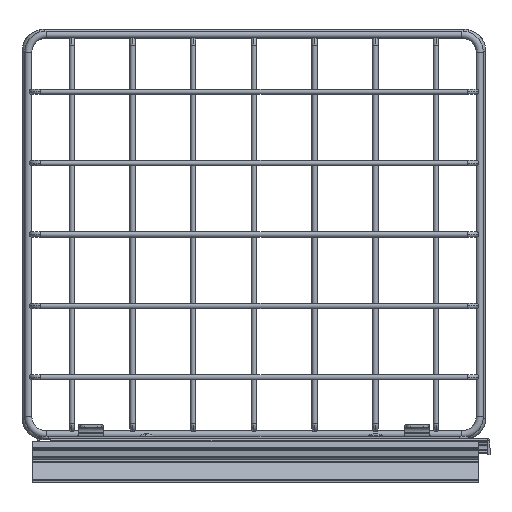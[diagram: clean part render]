
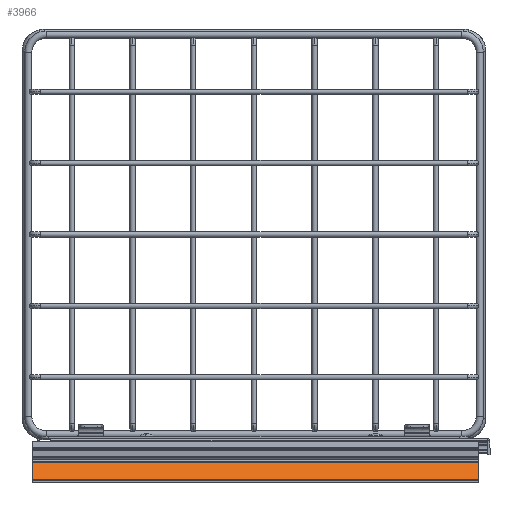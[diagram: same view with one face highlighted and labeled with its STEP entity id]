
A CAD part, front view. The second image highlights one B-rep face of the part: STEP entity #3966.
In plain terms, the highlighted planar face has unit normal (0, -0.838, 0.546).
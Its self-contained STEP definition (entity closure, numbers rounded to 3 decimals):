
#263 = ORIENTED_EDGE ( 'NONE', *, *, #8810, .T. ) ;
#853 = PLANE ( 'NONE',  #7718 ) ;
#1134 = LINE ( 'NONE', #7067, #3928 ) ;
#2016 = DIRECTION ( 'NONE',  ( -1., 0., 0. ) ) ;
#2386 = ORIENTED_EDGE ( 'NONE', *, *, #9060, .T. ) ;
#3427 = LINE ( 'NONE', #26014, #16430 ) ;
#3928 = VECTOR ( 'NONE', #13288, 1000. ) ;
#3966 = ADVANCED_FACE ( 'NONE', ( #10889 ), #853, .F. ) ;
#4681 = DIRECTION ( 'NONE',  ( 0., 0.546, 0.838 ) ) ;
#5348 = VERTEX_POINT ( 'NONE', #5388 ) ;
#5388 = CARTESIAN_POINT ( 'NONE',  ( 125., -14.904, 0.593 ) ) ;
#6912 = VECTOR ( 'NONE', #2016, 1000. ) ;
#7067 = CARTESIAN_POINT ( 'NONE',  ( 125., -14.756, 0.819 ) ) ;
#7238 = CARTESIAN_POINT ( 'NONE',  ( -125., -21.665, -9.773 ) ) ;
#7718 = AXIS2_PLACEMENT_3D ( 'NONE', #22777, #10762, #4681 ) ;
#8670 = CARTESIAN_POINT ( 'NONE',  ( 125., -21.665, -9.773 ) ) ;
#8810 = EDGE_CURVE ( 'NONE', #24860, #25404, #22518, .T. ) ;
#9060 = EDGE_CURVE ( 'NONE', #5348, #24860, #23693, .T. ) ;
#10491 = DIRECTION ( 'NONE',  ( 0., -0.546, -0.838 ) ) ;
#10762 = DIRECTION ( 'NONE',  ( 0., 0.838, -0.546 ) ) ;
#10889 = FACE_OUTER_BOUND ( 'NONE', #20535, .T. ) ;
#10989 = EDGE_CURVE ( 'NONE', #24388, #25404, #3427, .T. ) ;
#12063 = CARTESIAN_POINT ( 'NONE',  ( 125., -14.904, 0.593 ) ) ;
#13288 = DIRECTION ( 'NONE',  ( 0., -0.546, -0.838 ) ) ;
#16430 = VECTOR ( 'NONE', #19915, 1000. ) ;
#16439 = CARTESIAN_POINT ( 'NONE',  ( -125., -14.904, 0.593 ) ) ;
#19915 = DIRECTION ( 'NONE',  ( -1., 0., 0. ) ) ;
#20535 = EDGE_LOOP ( 'NONE', ( #263, #25201, #25092, #2386 ) ) ;
#21167 = VECTOR ( 'NONE', #10491, 1000. ) ;
#22469 = EDGE_CURVE ( 'NONE', #5348, #24388, #1134, .T. ) ;
#22518 = LINE ( 'NONE', #24899, #21167 ) ;
#22777 = CARTESIAN_POINT ( 'NONE',  ( 125., -14.756, 0.819 ) ) ;
#23693 = LINE ( 'NONE', #12063, #6912 ) ;
#24388 = VERTEX_POINT ( 'NONE', #8670 ) ;
#24860 = VERTEX_POINT ( 'NONE', #16439 ) ;
#24899 = CARTESIAN_POINT ( 'NONE',  ( -125., -14.756, 0.819 ) ) ;
#25092 = ORIENTED_EDGE ( 'NONE', *, *, #22469, .F. ) ;
#25201 = ORIENTED_EDGE ( 'NONE', *, *, #10989, .F. ) ;
#25404 = VERTEX_POINT ( 'NONE', #7238 ) ;
#26014 = CARTESIAN_POINT ( 'NONE',  ( 125., -21.665, -9.773 ) ) ;
